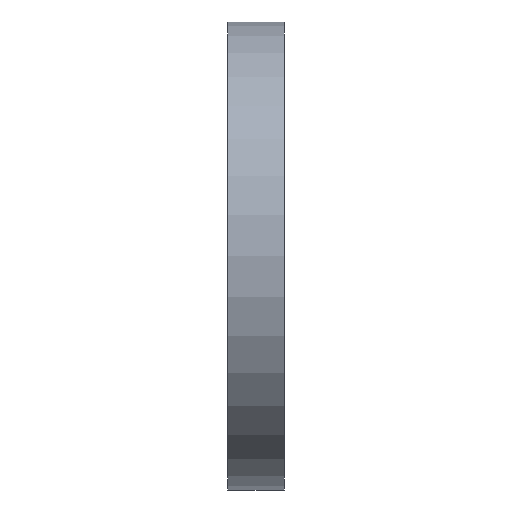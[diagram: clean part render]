
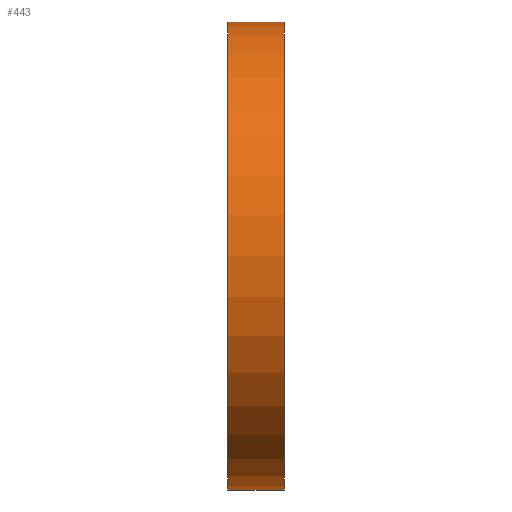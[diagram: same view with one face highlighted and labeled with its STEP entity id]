
A CAD part, left-side view. The second image highlights one B-rep face of the part: STEP entity #443.
In plain terms, the highlighted cylindrical face has radius 100 mm (diameter 200 mm), a partial arc.
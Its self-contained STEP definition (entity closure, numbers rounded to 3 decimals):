
#26 = VERTEX_POINT ( 'NONE', #738 ) ;
#42 = DIRECTION ( 'NONE',  ( 0., 1., 0. ) ) ;
#118 = LINE ( 'NONE', #826, #415 ) ;
#180 = EDGE_CURVE ( 'NONE', #558, #393, #723, .T. ) ;
#186 = ORIENTED_EDGE ( 'NONE', *, *, #419, .F. ) ;
#193 = AXIS2_PLACEMENT_3D ( 'NONE', #337, #352, #795 ) ;
#211 = FACE_OUTER_BOUND ( 'NONE', #441, .T. ) ;
#285 = DIRECTION ( 'NONE',  ( 0., 1., 0. ) ) ;
#297 = CARTESIAN_POINT ( 'NONE',  ( 0., 24., 0. ) ) ;
#313 = CIRCLE ( 'NONE', #574, 100. ) ;
#337 = CARTESIAN_POINT ( 'NONE',  ( 0., 34.695, 0. ) ) ;
#352 = DIRECTION ( 'NONE',  ( 0., 1., 0. ) ) ;
#387 = ORIENTED_EDGE ( 'NONE', *, *, #180, .F. ) ;
#393 = VERTEX_POINT ( 'NONE', #680 ) ;
#409 = VERTEX_POINT ( 'NONE', #615 ) ;
#411 = CARTESIAN_POINT ( 'NONE',  ( 0., 34.695, -100. ) ) ;
#415 = VECTOR ( 'NONE', #42, 1000. ) ;
#417 = CARTESIAN_POINT ( 'NONE',  ( 0., 0., 0. ) ) ;
#419 = EDGE_CURVE ( 'NONE', #409, #558, #664, .T. ) ;
#441 = EDGE_LOOP ( 'NONE', ( #186, #498, #525, #387 ) ) ;
#443 = ADVANCED_FACE ( 'NONE', ( #211 ), #802, .T. ) ;
#475 = AXIS2_PLACEMENT_3D ( 'NONE', #297, #630, #831 ) ;
#482 = DIRECTION ( 'NONE',  ( 0., 1., 0. ) ) ;
#490 = EDGE_CURVE ( 'NONE', #409, #26, #313, .T. ) ;
#498 = ORIENTED_EDGE ( 'NONE', *, *, #490, .T. ) ;
#525 = ORIENTED_EDGE ( 'NONE', *, *, #534, .T. ) ;
#534 = EDGE_CURVE ( 'NONE', #26, #393, #118, .T. ) ;
#551 = VECTOR ( 'NONE', #482, 1000. ) ;
#558 = VERTEX_POINT ( 'NONE', #636 ) ;
#574 = AXIS2_PLACEMENT_3D ( 'NONE', #417, #285, #736 ) ;
#615 = CARTESIAN_POINT ( 'NONE',  ( 0., 0., -100. ) ) ;
#630 = DIRECTION ( 'NONE',  ( 0., 1., 0. ) ) ;
#636 = CARTESIAN_POINT ( 'NONE',  ( 0., 24., -100. ) ) ;
#664 = LINE ( 'NONE', #411, #551 ) ;
#680 = CARTESIAN_POINT ( 'NONE',  ( 0., 24., 100. ) ) ;
#723 = CIRCLE ( 'NONE', #475, 100. ) ;
#736 = DIRECTION ( 'NONE',  ( 0., 0., 1. ) ) ;
#738 = CARTESIAN_POINT ( 'NONE',  ( 0., 0., 100. ) ) ;
#795 = DIRECTION ( 'NONE',  ( 0., 0., 1. ) ) ;
#802 = CYLINDRICAL_SURFACE ( 'NONE', #193, 100. ) ;
#826 = CARTESIAN_POINT ( 'NONE',  ( 0., 34.695, 100. ) ) ;
#831 = DIRECTION ( 'NONE',  ( 0., 0., 1. ) ) ;
